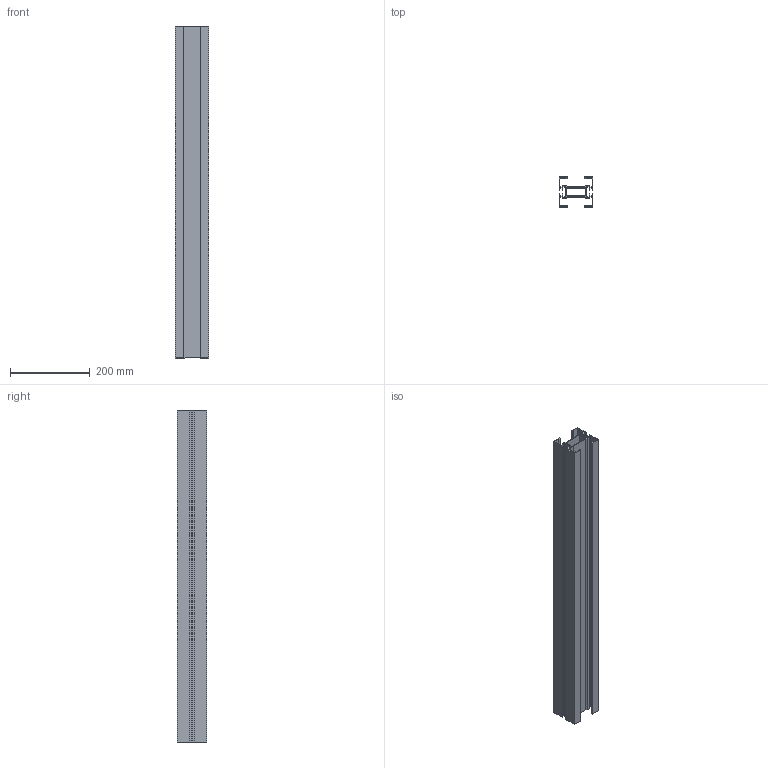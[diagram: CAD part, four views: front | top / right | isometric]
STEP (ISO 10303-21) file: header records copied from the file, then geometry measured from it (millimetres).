
FILE_DESCRIPTION (( 'STEP AP203' ), '1' );
FILE_NAME ('stucture FM.STEP', '2007-12-20T14:48:55', ( ' ' ), ( ' ' ), 'SwSTEP 2.0', 'SolidWorks 2008', '' );
FILE_SCHEMA (( 'CONFIG_CONTROL_DESIGN' ));
Length unit declared in the file: millimetre
Products named in the file (1): stucture FM
Bounding box: 85 x 74 x 832 mm (x, y, z)
Volume: 746077 mm3; surface area: 742542.6 mm2
Topology: 1 solids, 1 shells, 100 faces, 294 edges, 196 vertices
Faces by surface type: plane 88, cylinder 12
Entity records: 3363 total; most frequent: CARTESIAN_POINT 591, ORIENTED_EDGE 588, DIRECTION 520, EDGE_CURVE 294, VECTOR 270, LINE 270, VERTEX_POINT 196, AXIS2_PLACEMENT_3D 125
